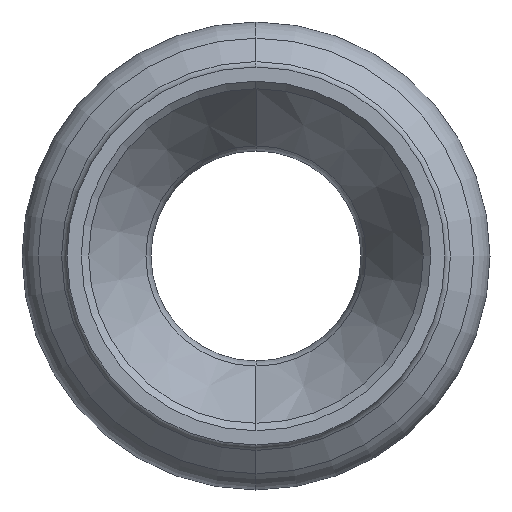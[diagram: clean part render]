
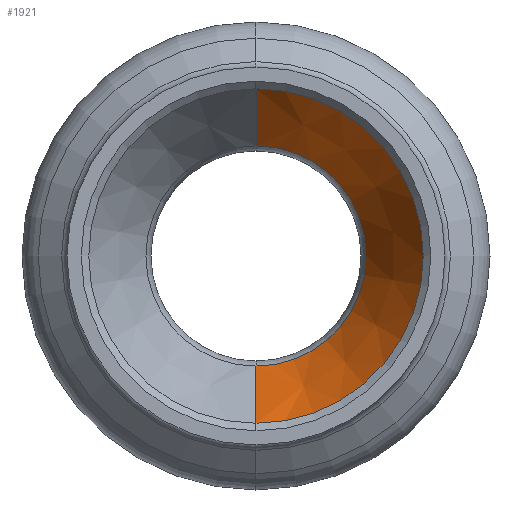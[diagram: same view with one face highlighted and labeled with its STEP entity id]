
A CAD part, left-side view. The second image highlights one B-rep face of the part: STEP entity #1921.
In plain terms, the highlighted conical face has half-angle 30 degrees and reference radius 11.15 mm.
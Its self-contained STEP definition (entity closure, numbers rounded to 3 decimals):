
#45 = CARTESIAN_POINT ( 'NONE',  ( 27., 0., -11.15 ) ) ;
#75 = VECTOR ( 'NONE', #166, 1000. ) ;
#166 = DIRECTION ( 'NONE',  ( -0.866, 0., -0.5 ) ) ;
#202 = CARTESIAN_POINT ( 'NONE',  ( 33.602, 0., 7.339 ) ) ;
#215 = FACE_OUTER_BOUND ( 'NONE', #1393, .T. ) ;
#337 = CARTESIAN_POINT ( 'NONE',  ( 27., 0., -11.15 ) ) ;
#338 = EDGE_CURVE ( 'NONE', #1527, #632, #1450, .T. ) ;
#349 = VERTEX_POINT ( 'NONE', #1334 ) ;
#360 = DIRECTION ( 'NONE',  ( 0., 0., 1. ) ) ;
#382 = EDGE_CURVE ( 'NONE', #1493, #632, #487, .T. ) ;
#454 = CARTESIAN_POINT ( 'NONE',  ( 33.602, 0., 0. ) ) ;
#465 = DIRECTION ( 'NONE',  ( -1., 0., 0. ) ) ;
#487 = LINE ( 'NONE', #804, #1629 ) ;
#512 = ORIENTED_EDGE ( 'NONE', *, *, #527, .F. ) ;
#527 = EDGE_CURVE ( 'NONE', #349, #1493, #600, .T. ) ;
#561 = EDGE_CURVE ( 'NONE', #349, #1527, #1379, .T. ) ;
#600 = CIRCLE ( 'NONE', #677, 7.339 ) ;
#632 = VERTEX_POINT ( 'NONE', #1497 ) ;
#677 = AXIS2_PLACEMENT_3D ( 'NONE', #454, #465, #360 ) ;
#753 = AXIS2_PLACEMENT_3D ( 'NONE', #1923, #1626, #1733 ) ;
#804 = CARTESIAN_POINT ( 'NONE',  ( 27., 0., 11.15 ) ) ;
#818 = DIRECTION ( 'NONE',  ( -0.866, 0., 0.5 ) ) ;
#1033 = ORIENTED_EDGE ( 'NONE', *, *, #561, .T. ) ;
#1170 = AXIS2_PLACEMENT_3D ( 'NONE', #1430, #1772, #1284 ) ;
#1222 = ORIENTED_EDGE ( 'NONE', *, *, #338, .T. ) ;
#1274 = ORIENTED_EDGE ( 'NONE', *, *, #382, .F. ) ;
#1284 = DIRECTION ( 'NONE',  ( 0., 0., 1. ) ) ;
#1334 = CARTESIAN_POINT ( 'NONE',  ( 33.602, 0., -7.339 ) ) ;
#1379 = LINE ( 'NONE', #45, #75 ) ;
#1393 = EDGE_LOOP ( 'NONE', ( #512, #1033, #1222, #1274 ) ) ;
#1430 = CARTESIAN_POINT ( 'NONE',  ( 27., 0., 0. ) ) ;
#1448 = CONICAL_SURFACE ( 'NONE', #753, 11.15, 0.524 ) ;
#1450 = CIRCLE ( 'NONE', #1170, 11.15 ) ;
#1493 = VERTEX_POINT ( 'NONE', #202 ) ;
#1497 = CARTESIAN_POINT ( 'NONE',  ( 27., 0., 11.15 ) ) ;
#1527 = VERTEX_POINT ( 'NONE', #337 ) ;
#1626 = DIRECTION ( 'NONE',  ( -1., 0., 0. ) ) ;
#1629 = VECTOR ( 'NONE', #818, 1000. ) ;
#1733 = DIRECTION ( 'NONE',  ( 0., 0., 1. ) ) ;
#1772 = DIRECTION ( 'NONE',  ( -1., 0., 0. ) ) ;
#1921 = ADVANCED_FACE ( 'NONE', ( #215 ), #1448, .F. ) ;
#1923 = CARTESIAN_POINT ( 'NONE',  ( 27., 0., 0. ) ) ;
